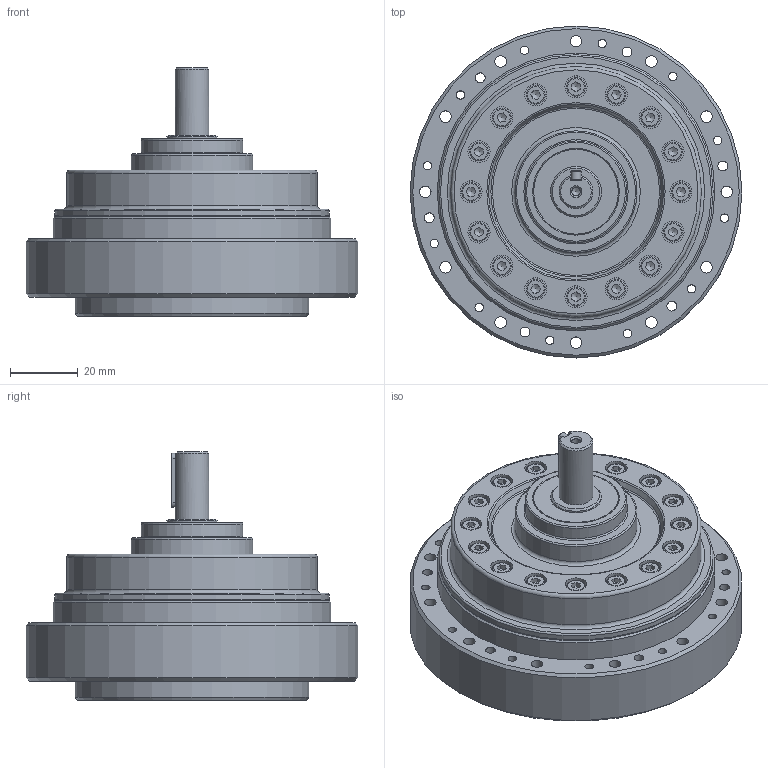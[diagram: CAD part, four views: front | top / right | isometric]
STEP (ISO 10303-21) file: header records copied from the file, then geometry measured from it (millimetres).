
FILE_DESCRIPTION(/* description */ (''),/* implementation_level */ '2;1');
FILE_NAME(/* name */ 'C:\Users\yin210\Desktop\CPU\20\DSC-20-AJ-M.stp',/* time_stamp */ '2022-05-16T16:24:35+08:00',/* author */ ('yin210'),/* organization */ (''),/* preprocessor_version */ 'ST-DEVELOPER v15.2',/* originating_system */ 'Autodesk Inventor 2014',/* authorisation */ '');
FILE_SCHEMA (('AUTOMOTIVE_DESIGN { 1 0 10303 214 3 1 1 }'));
Length unit declared in the file: centimetre
Products named in the file (1): DSC-20-AJ-M
Bounding box: 98 x 98 x 73.5 mm (x, y, z)
Volume: 241818.2 mm3; surface area: 37113.9 mm2
Topology: 1 solids, 11 shells, 380 faces, 873 edges, 568 vertices
Faces by surface type: plane 182, cylinder 113, cone 57, torus 28
Full cylindrical faces by diameter (mm): 2.459 x19, 2.9 x6, 3 x4, 3.242 x12, 3.4 x12, 4.134 x8, 5.5 x22, 6.5 x16, 10 x1, 15 x1, 25 x1, 30 x1, 36 x1, 54 x1, 69 x1, 74 x1, 81 x1, 82 x1, 98 x1
Entity records: 9291 total; most frequent: CARTESIAN_POINT 1685, DIRECTION 1545, ORIENTED_EDGE 1206, EDGE_LOOP 685, AXIS2_PLACEMENT_3D 660, EDGE_CURVE 603, VERTEX_POINT 488, ADVANCED_FACE 380
